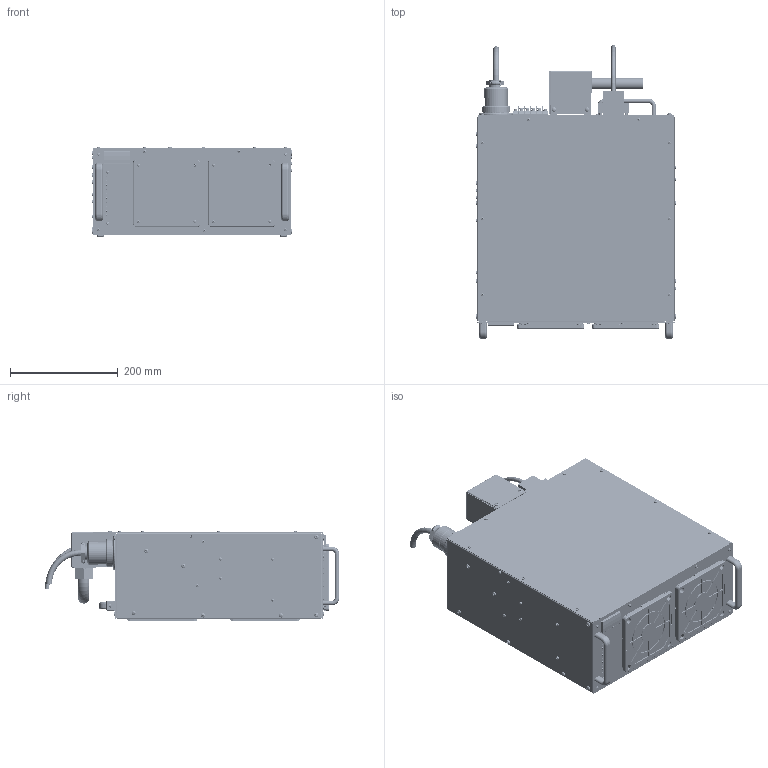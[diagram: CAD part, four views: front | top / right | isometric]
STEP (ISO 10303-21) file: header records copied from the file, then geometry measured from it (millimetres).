
FILE_DESCRIPTION(('STEP AP214'),'1');
FILE_NAME('HPS-30A+CABLE(AP214).stp','2023-06-27T02:59:30',(' '),(' '),'Spatial InterOp 3D',' ',' ');
FILE_SCHEMA(('AUTOMOTIVE_DESIGN { 1 0 10303 214 1 1 1 1 }'));
Length unit declared in the file: millimetre
Products named in the file (167): HPS-30A; BK45375; M3x4-Screw070; M3x4-Screw069; M3-Washer080; M3-Washer079; BK42295E1_001; M3x4-Screw068; M3x4-Screw067; M3x4-Screw066; M3x5-Screw005; M3x6-Screw; M3x8-Screw014; M3-Washer071; M3-Washer070; TG108B-4P1_001; XM3B_2522_1121_001; BK42911A_001; led_010; led_009; led_008; led_007; led_006; led_005; led_004; led_003; led_002; led_001; M3x4-Screw045; M3x4-Screw044; M3x6-Screw001; M3x4-Screw043; M3x4-Screw042; M3x4-Screw041; M3x4-Screw040; M3x4-Screw039; M3-Washer059; M3-Washer058; M3-Washer057; M3-Washer056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
Assembly tree (170 placements, depth 3):
  HPS-30A+CABLE
    HPS-30A
      BK45375
      M3x4-Screw070
      M3x4-Screw069
      M3-Washer080
      M3-Washer079
      BK42295E1_001
      M3x4-Screw068
      M3x4-Screw067
      M3x4-Screw066
      M3x5-Screw005
      M3x6-Screw
      M3x8-Screw014
      M3-Washer071
      M3-Washer070
      TG108B-4P1_001
      XM3B_2522_1121_001
      BK42911A_001
      led_010
      led_009
      led_008
      led_007
      led_006
      led_005
      led_004
      led_003
      led_002
      led_001
      M3x4-Screw045
      M3x4-Screw044
      M3x6-Screw001
      M3x4-Screw043
      M3x4-Screw042
      M3x4-Screw041
      M3x4-Screw040
      M3x4-Screw039
      M3-Washer059
      M3-Washer058
      M3-Washer057
      M3-Washer056
      M3-Washer055
      M3-Washer054
      M3-Washer053
      M3x4-Screw038
      M3x4-Screw037
      M3x4-Screw036
      M3x8-Screw011
      M3x4-Screw033
      M3x4-Screw032
      M3x5-Screw004
      M3x5-Screw003
      M3x5-Screw
      M3x8-Screw010
      M3x4-Screw035
      M4x5-Screw018
      M3-Washer045
      M3-Washer044
      M3-Washer043
      M3-Washer041
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Bounding box: 372.14 x 544.9 x 168.02 mm (x, y, z)
Volume: 1068067.8 mm3; surface area: 1449725.4 mm2
Topology: 169 solids, 169 shells, 5192 faces, 13839 edges, 8692 vertices
Faces by surface type: plane 2620, bspline 1070, cylinder 869, cone 412, revolution 89, sphere 86, torus 46
Full cylindrical faces by diameter (mm): 2 x88, 3 x53, 3.4 x3, 4 x17, 5 x3, 5.3 x3, 5.6 x52, 6 x34, 6.5 x8, 7 x2, 8 x43, 9 x10, 11 x8, 15.679 x1, 21.1 x1, 32.2 x1, 37 x1, 41 x1, 43 x1, 44 x1, 44.4 x1, 46 x1, 46.7 x4, 47.78 x4, 52 x1, 64 x1
Entity records: 227214 total; most frequent: CARTESIAN_POINT 57429, ORIENTED_EDGE 21170, DIRECTION 18989, PRESENTATION_STYLE_ASSIGNMENT 11728, COLOUR_RGB 11728, STYLED_ITEM 11574, EDGE_CURVE 10585, AXIS2_PLACEMENT_3D 7582
